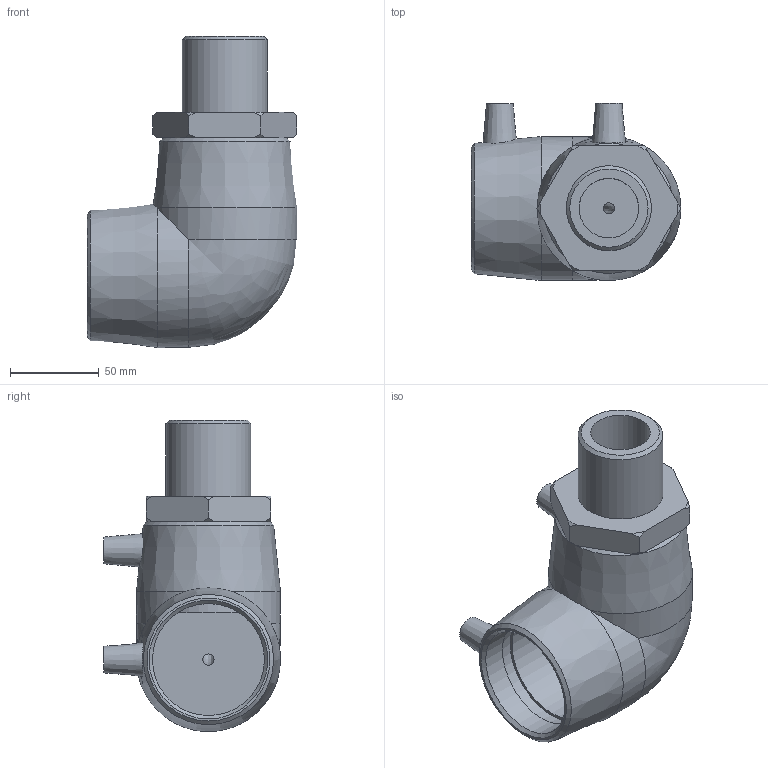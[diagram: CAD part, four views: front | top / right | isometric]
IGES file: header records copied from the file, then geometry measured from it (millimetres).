
Global section: file name: 497504063015.ipt; native system: Autodesk Inventor 2015; preprocessor: unknown; author: KIM; date: 20190421.151320; units: millimetre
Bounding box: 118 x 99.5 x 175 mm (x, y, z)
Volume: 614221.8 mm3; surface area: 105184.3 mm2
Topology: 2 solids, 2 shells, 60 faces, 146 edges, 98 vertices
Faces by surface type: plane 22, cone 19, revolution 12, cylinder 6, bspline 1
Full cylindrical faces by diameter (mm): 4 x2, 47.803 x1, 63 x1
